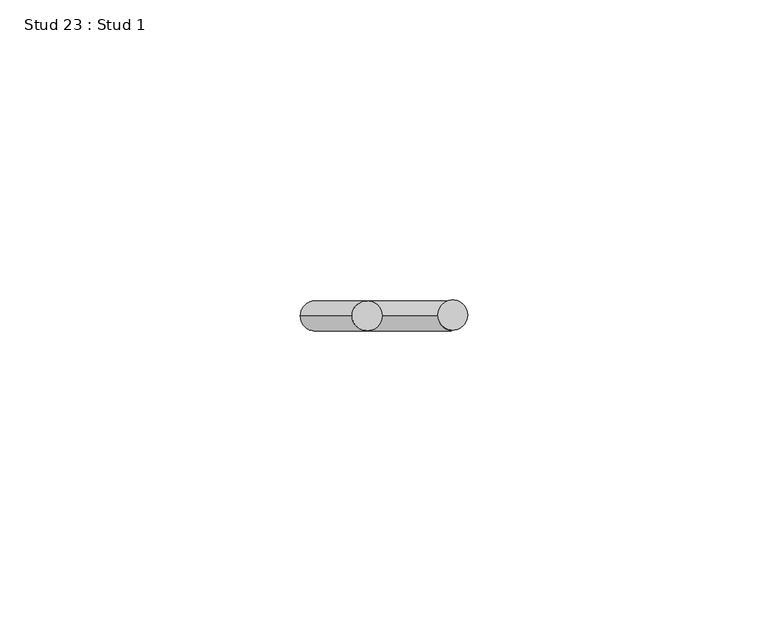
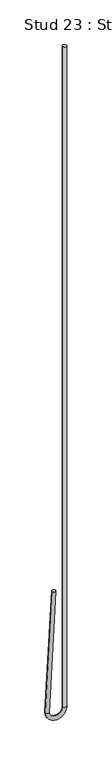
"""IFC4 building model written with IfcOpenShell, lengths in millimetres: proxy geometry, Stud 23 : Stud 1."""

from ifc_helpers import new_model, si_unit, point, frame, origin, place, context, project, spatial, circle_curve, ellipse_curve, trimmed, source, transform, mapped, element, save
from ifc_brep_helpers import plane_surface, cylinder_surface, revolved_surface, advanced_brep


def stud_23_stud_1_22d17ae9(model_context):
    return source(origin(), model_context, "Body", "AdvancedBrep", [
        advanced_brep(
        [(-13440.3532788, 3381.5191481, 3640.800192), (-13435.3601311, 3381.5191481, 3640.5385122), (-13448.9939451, 3381.5191481, 3475.9264558), (-13444.0007975, 3381.5191481, 3475.664776), (-13426.0920812, 3381.5191481, 3475.7956159), (-13421.0920812, 3381.5191481, 3475.7956159), (-13421.0920812, 3381.5191481, 4390.1956159), (-13426.0920812, 3381.5191481, 4390.1956159)],
        [
            (0, 1, circle_curve(frame((-13437.8567049, 3381.5191481, 3640.6693521), z_axis=(0.05233595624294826, 0.0, 0.9986295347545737), x_axis=(0.9986295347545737, 0.0, -0.05233595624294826)), 2.5)),
            (1, 0, circle_curve(frame((-13437.8567049, 3381.5191481, 3640.6693521), z_axis=(0.05233595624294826, 0.0, 0.9986295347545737), x_axis=(0.9986295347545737, 0.0, -0.05233595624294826)), 2.5)),
            (0, 2),
            (2, 3, circle_curve(frame((-13446.4973713, 3381.5191481, 3475.7956159), z_axis=(0.05233595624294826, 0.0, 0.9986295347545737), x_axis=(0.9986295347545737, 0.0, -0.05233595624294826)), 2.5)),
            (3, 1),
            (3, 2, circle_curve(frame((-13446.4973713, 3381.5191481, 3475.7956159), z_axis=(0.05233595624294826, 0.0, 0.9986295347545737), x_axis=(0.9986295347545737, 0.0, -0.05233595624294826)), 2.5)),
            (4, 3, circle_curve(frame((-13435.0447263, 3381.5191481, 3475.7956159), z_axis=(0.0, 1.0, 0.0), x_axis=(-1.0, 0.0, 0.0)), 8.952645)),
            (2, 5, circle_curve(frame((-13435.0447263, 3381.5191481, 3475.7956159), z_axis=(0.0, -1.0, 0.0), x_axis=(-1.0, 0.0, 0.0)), 13.952645)),
            (5, 4, circle_curve(frame((-13423.5920812, 3381.5191481, 3475.7956159), z_axis=(0.0, 0.0, -1.0), x_axis=(-1.0, 0.0, 0.0)), 2.5)),
            (4, 5, circle_curve(frame((-13423.5920812, 3381.5191481, 3475.7956159), z_axis=(0.0, 0.0, -1.0), x_axis=(-1.0, 0.0, 0.0)), 2.5)),
            (6, 7, circle_curve(frame((-13423.5920812, 3381.5191481, 4390.1956159), z_axis=(0.0, 0.0, 1.0), x_axis=(-1.0, 0.0, 0.0)), 2.5)),
            (7, 6, circle_curve(frame((-13423.5920812, 3381.5191481, 4390.1956159), z_axis=(0.0, 0.0, 1.0), x_axis=(-1.0, 0.0, 0.0)), 2.5)),
            (5, 6),
            (7, 4),
        ],
        [
            plane_surface(frame((-13437.8567049, 3975.2441481, 3640.6693521), z_axis=(0.05233595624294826, 0.0, 0.9986295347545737), x_axis=(0.0, -1.0, 0.0))),
            cylinder_surface(frame((-13437.8567049, 3381.5191481, 3640.6693521), z_axis=(0.05233595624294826, 0.0, 0.9986295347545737), x_axis=(0.9986295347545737, 0.0, -0.05233595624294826)), 2.5),
            revolved_surface(trimmed(ellipse_curve(frame((-13446.4973713, 3381.5191481, 3475.7956159), z_axis=(0.0, 0.0, 1.0), x_axis=(1.0, 0.0, 0.0)), 2.5, 2.5), [point((-13448.9973713, 3381.5191481, 3475.7956159))], [point((-13443.9973713, 3381.5191481, 3475.7956159))], True, "CARTESIAN"), (-13435.0447263, 3975.2441481, 3475.7956159), (0.0, -1.0, 0.0)),
            revolved_surface(trimmed(ellipse_curve(frame((-13446.4973713, 3381.5191481, 3475.7956159), z_axis=(0.0, 0.0, 1.0), x_axis=(1.0, 0.0, 0.0)), 2.5, 2.5), [point((-13443.9973713, 3381.5191481, 3475.7956159))], [point((-13448.9973713, 3381.5191481, 3475.7956159))], True, "CARTESIAN"), (-13435.0447263, 3975.2441481, 3475.7956159), (0.0, -1.0, 0.0)),
            plane_surface(frame((-13423.5920812, 3975.2441481, 4390.1956159), z_axis=(0.0, 0.0, 1.0), x_axis=(0.0, -1.0, 0.0))),
            cylinder_surface(frame((-13423.5920812, 3381.5191481, 3475.7956159), z_axis=(0.0, 0.0, -1.0), x_axis=(-1.0, 0.0, 0.0)), 2.5),
        ],
        [
            (0, [[1, 2]]),
            (1, [[-1, 3, 4, 5]]),
            (1, [[-2, -5, 6, -3]]),
            (2, [[7, -4, 8, 9]]),
            (3, [[-8, -6, -7, 10]]),
            (4, [[11, 12]]),
            (5, [[-9, 13, -12, 14]]),
            (5, [[-10, -14, -11, -13]]),
        ],
    ),
    ])


if __name__ == "__main__":
    model = new_model("IFC4")
    model_context = context("Model", 3, world=origin())
    ifc_project = project(units=[si_unit("LENGTHUNIT", "METRE", prefix="MILLI")], contexts=[model_context])
    site = spatial("IfcSite", under=ifc_project)
    building = spatial("IfcBuilding", under=site)
    placement = place(None, origin())
    stud_23_stud_1_shape = stud_23_stud_1_22d17ae9(model_context)
    element("IfcBuildingElementProxy", 1, Name="Stud 23 : Stud 1", ObjectType="Stud 23 : Stud 1", at=placement, inside=building, context=model_context, shape_type="MappedRepresentation", body=[
        mapped(stud_23_stud_1_shape, transform((0.0, 0.0, 0.0), x_axis=(1.0, 0.0, 0.0), y_axis=(0.0, 1.0, 0.0), z_axis=(0.0, 0.0, 1.0))),
    ])
    save(model, "model.ifc")
